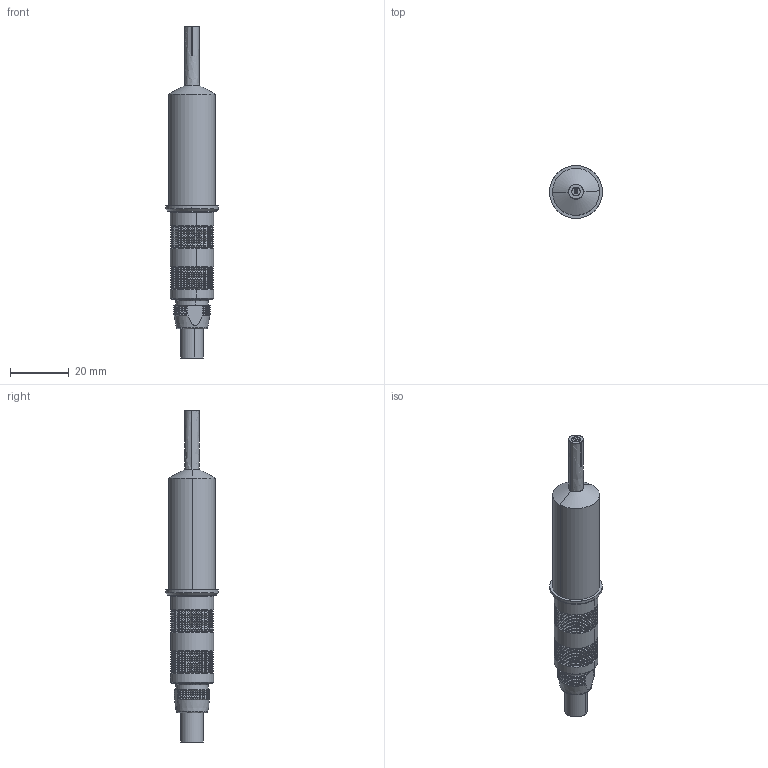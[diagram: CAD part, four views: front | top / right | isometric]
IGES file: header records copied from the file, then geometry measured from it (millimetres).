
Start section: SolidWorks IGES file using analytic representation for surfaces
Global section: file name: C:\SolidWorks Data (2)\Winker Foser\RISO5 Zeichnungen\RISO5_kurz_Stecker_gerade.IGS; native system: SolidWorks 2010; preprocessor: SolidWorks 2010; author: m; date: 110221.015807; units: millimetre
Bounding box: 18 x 18 x 113 mm (x, y, z)
Surface area: 5274.1 mm2 (no closed solid volume)
Topology: 0 solids, 0 shells, 7064 faces, 30135 edges, 30133 vertices
Faces by surface type: bspline 4381, revolution 2683
